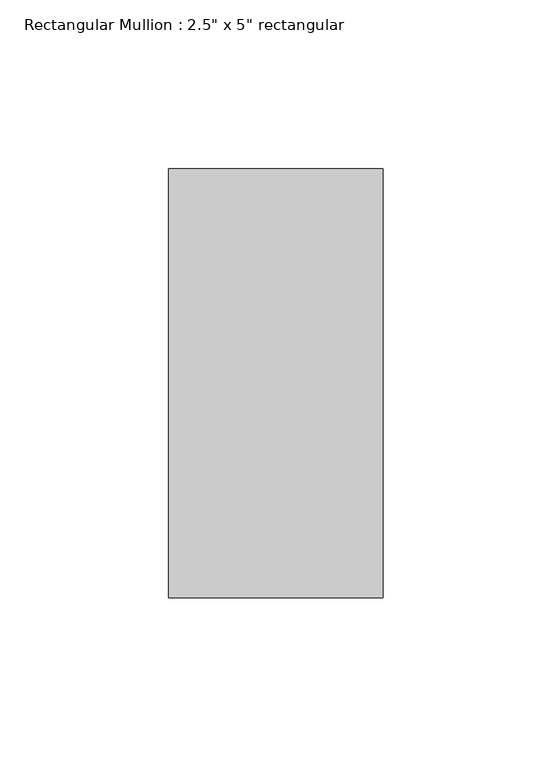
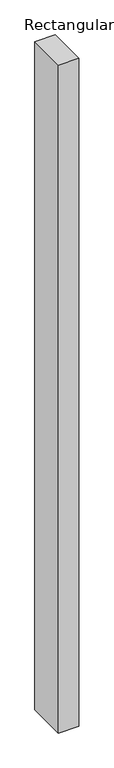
"""IFC4 building model written with IfcOpenShell, lengths in millimetres: member geometry."""

from ifc_helpers import new_model, si_unit, frame, origin, place, context, project, spatial, polyline, outline, extrude, source, transform, mapped, element, save


def member_34764c31(model_context):
    return source(origin(), model_context, "Body", "SweptSolid", [
        extrude(outline(polyline([(31.75, 63.5), (31.75, -63.5), (-31.75, -63.5), (-31.75, 63.5), (31.75, 63.5)])), frame((0.0, 0.0, -2197.372052), z_axis=(0.0, 0.0, 1.0), x_axis=(1.0, 0.0, 0.0)), (0.0, 0.0, 1.0), 2197.372052),
    ])


if __name__ == "__main__":
    model = new_model("IFC4")
    model_context = context("Model", 3, world=origin())
    ifc_project = project(units=[si_unit("LENGTHUNIT", "METRE", prefix="MILLI")], contexts=[model_context])
    site = spatial("IfcSite", under=ifc_project)
    building = spatial("IfcBuilding", under=site)
    placement = place(None, origin())
    member_shape = member_34764c31(model_context)
    element("IfcMember", 1, ObjectType="Rectangular Mullion : 2.5\" x 5\" rectangular", at=placement, inside=building, context=model_context, shape_type="MappedRepresentation", body=[
        mapped(member_shape, transform((0.0, 0.0, 0.0), x_axis=(1.0, 0.0, 0.0), y_axis=(0.0, 1.0, 0.0), z_axis=(0.0, 0.0, 1.0))),
    ])
    save(model, "model.ifc")
